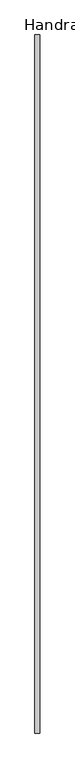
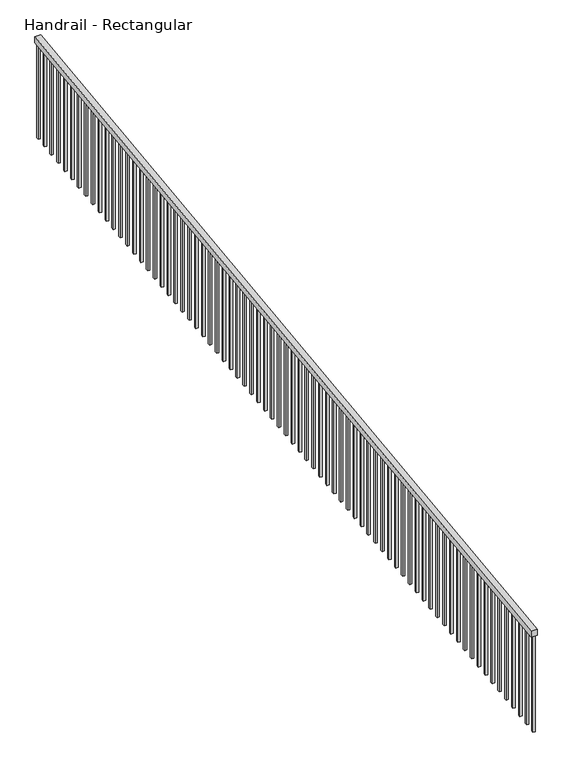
"""IFC4 building model written with IfcOpenShell, lengths in millimetres: railing geometry, Handrail - Rectangular."""

from ifc_helpers import new_model, si_unit, frame, origin, place, context, project, spatial, polyline, outline, extrude, source, transform, mapped, element, save


def handrail_rectangular_981b7af3(model_context):
    return source(origin(), model_context, "Body", "SweptSolid", [
        extrude(outline(polyline([(-8472.2859239, -51.1953367), (-8472.2859239, 0.0), (-1157.0859239, 914.4), (-1157.0859239, 863.2046633), (-8472.2859239, -51.1953367)])), frame((-3397.6845581, 0.0, 0.0), z_axis=(1.0, 0.0, 0.0), x_axis=(0.0, 1.0, 0.0)), (0.0, 0.0, 1.0), 50.8),
        extrude(outline(polyline([(-1268.2109239, 849.3140383), (-1249.1609239, 851.6952883), (-1249.1609239, -11.509375), (-1268.2109239, -13.890625), (-1268.2109239, 849.3140383)])), frame((-3381.8095581, 0.0, 0.0), z_axis=(1.0, 0.0, 0.0), x_axis=(0.0, 1.0, 0.0)), (0.0, 0.0, 1.0), 19.05),
        extrude(outline(polyline([(-1369.8109239, 836.6140383), (-1350.7609239, 838.9952883), (-1350.7609239, -24.209375), (-1369.8109239, -26.590625), (-1369.8109239, 836.6140383)])), frame((-3381.8095581, 0.0, 0.0), z_axis=(1.0, 0.0, 0.0), x_axis=(0.0, 1.0, 0.0)), (0.0, 0.0, 1.0), 19.05),
        extrude(outline(polyline([(-1471.4109239, 823.9140383), (-1452.3609239, 826.2952883), (-1452.3609239, -36.909375), (-1471.4109239, -39.290625), (-1471.4109239, 823.9140383)])), frame((-3381.8095581, 0.0, 0.0), z_axis=(1.0, 0.0, 0.0), x_axis=(0.0, 1.0, 0.0)), (0.0, 0.0, 1.0), 19.05),
        extrude(outline(polyline([(-1573.0109239, 811.2140383), (-1553.9609239, 813.5952883), (-1553.9609239, -49.609375), (-1573.0109239, -51.990625), (-1573.0109239, 811.2140383)])), frame((-3381.8095581, 0.0, 0.0), z_axis=(1.0, 0.0, 0.0), x_axis=(0.0, 1.0, 0.0)), (0.0, 0.0, 1.0), 19.05),
        extrude(outline(polyline([(-1674.6109239, 798.5140383), (-1655.5609239, 800.8952883), (-1655.5609239, -62.309375), (-1674.6109239, -64.690625), (-1674.6109239, 798.5140383)])), frame((-3381.8095581, 0.0, 0.0), z_axis=(1.0, 0.0, 0.0), x_axis=(0.0, 1.0, 0.0)), (0.0, 0.0, 1.0), 19.05),
        extrude(outline(polyline([(-1776.2109239, 785.8140383), (-1757.1609239, 788.1952883), (-1757.1609239, -75.009375), (-1776.2109239, -77.390625), (-1776.2109239, 785.8140383)])), frame((-3381.8095581, 0.0, 0.0), z_axis=(1.0, 0.0, 0.0), x_axis=(0.0, 1.0, 0.0)), (0.0, 0.0, 1.0), 19.05),
        extrude(outline(polyline([(-1877.8109239, 773.1140383), (-1858.7609239, 775.4952883), (-1858.7609239, -87.709375), (-1877.8109239, -90.090625), (-1877.8109239, 773.1140383)])), frame((-3381.8095581, 0.0, 0.0), z_axis=(1.0, 0.0, 0.0), x_axis=(0.0, 1.0, 0.0)), (0.0, 0.0, 1.0), 19.05),
        extrude(outline(polyline([(-1979.4109239, 760.4140383), (-1960.3609239, 762.7952883), (-1960.3609239, -100.409375), (-1979.4109239, -102.790625), (-1979.4109239, 760.4140383)])), frame((-3381.8095581, 0.0, 0.0), z_axis=(1.0, 0.0, 0.0), x_axis=(0.0, 1.0, 0.0)), (0.0, 0.0, 1.0), 19.05),
        extrude(outline(polyline([(-2081.0109239, 747.7140383), (-2061.9609239, 750.0952883), (-2061.9609239, -113.109375), (-2081.0109239, -115.490625), (-2081.0109239, 747.7140383)])), frame((-3381.8095581, 0.0, 0.0), z_axis=(1.0, 0.0, 0.0), x_axis=(0.0, 1.0, 0.0)), (0.0, 0.0, 1.0), 19.05),
        extrude(outline(polyline([(-2182.6109239, 735.0140383), (-2163.5609239, 737.3952883), (-2163.5609239, -125.809375), (-2182.6109239, -128.190625), (-2182.6109239, 735.0140383)])), frame((-3381.8095581, 0.0, 0.0), z_axis=(1.0, 0.0, 0.0), x_axis=(0.0, 1.0, 0.0)), (0.0, 0.0, 1.0), 19.05),
        extrude(outline(polyline([(-2284.2109239, 722.3140383), (-2265.1609239, 724.6952883), (-2265.1609239, -138.509375), (-2284.2109239, -140.890625), (-2284.2109239, 722.3140383)])), frame((-3381.8095581, 0.0, 0.0), z_axis=(1.0, 0.0, 0.0), x_axis=(0.0, 1.0, 0.0)), (0.0, 0.0, 1.0), 19.05),
        extrude(outline(polyline([(-2385.8109239, 709.6140383), (-2366.7609239, 711.9952883), (-2366.7609239, -151.209375), (-2385.8109239, -153.590625), (-2385.8109239, 709.6140383)])), frame((-3381.8095581, 0.0, 0.0), z_axis=(1.0, 0.0, 0.0), x_axis=(0.0, 1.0, 0.0)), (0.0, 0.0, 1.0), 19.05),
        extrude(outline(polyline([(-2487.4109239, 696.9140383), (-2468.3609239, 699.2952883), (-2468.3609239, -163.909375), (-2487.4109239, -166.290625), (-2487.4109239, 696.9140383)])), frame((-3381.8095581, 0.0, 0.0), z_axis=(1.0, 0.0, 0.0), x_axis=(0.0, 1.0, 0.0)), (0.0, 0.0, 1.0), 19.05),
        extrude(outline(polyline([(-2589.0109239, 684.2140383), (-2569.9609239, 686.5952883), (-2569.9609239, -176.609375), (-2589.0109239, -178.990625), (-2589.0109239, 684.2140383)])), frame((-3381.8095581, 0.0, 0.0), z_axis=(1.0, 0.0, 0.0), x_axis=(0.0, 1.0, 0.0)), (0.0, 0.0, 1.0), 19.05),
        extrude(outline(polyline([(-2690.6109239, 671.5140383), (-2671.5609239, 673.8952883), (-2671.5609239, -189.309375), (-2690.6109239, -191.690625), (-2690.6109239, 671.5140383)])), frame((-3381.8095581, 0.0, 0.0), z_axis=(1.0, 0.0, 0.0), x_axis=(0.0, 1.0, 0.0)), (0.0, 0.0, 1.0), 19.05),
        extrude(outline(polyline([(-2792.2109239, 658.8140383), (-2773.1609239, 661.1952883), (-2773.1609239, -202.009375), (-2792.2109239, -204.390625), (-2792.2109239, 658.8140383)])), frame((-3381.8095581, 0.0, 0.0), z_axis=(1.0, 0.0, 0.0), x_axis=(0.0, 1.0, 0.0)), (0.0, 0.0, 1.0), 19.05),
        extrude(outline(polyline([(-2893.8109239, 646.1140383), (-2874.7609239, 648.4952883), (-2874.7609239, -214.709375), (-2893.8109239, -217.090625), (-2893.8109239, 646.1140383)])), frame((-3381.8095581, 0.0, 0.0), z_axis=(1.0, 0.0, 0.0), x_axis=(0.0, 1.0, 0.0)), (0.0, 0.0, 1.0), 19.05),
        extrude(outline(polyline([(-2995.4109239, 633.4140383), (-2976.3609239, 635.7952883), (-2976.3609239, -227.409375), (-2995.4109239, -229.790625), (-2995.4109239, 633.4140383)])), frame((-3381.8095581, 0.0, 0.0), z_axis=(1.0, 0.0, 0.0), x_axis=(0.0, 1.0, 0.0)), (0.0, 0.0, 1.0), 19.05),
        extrude(outline(polyline([(-3097.0109239, 620.7140383), (-3077.9609239, 623.0952883), (-3077.9609239, -240.109375), (-3097.0109239, -242.490625), (-3097.0109239, 620.7140383)])), frame((-3381.8095581, 0.0, 0.0), z_axis=(1.0, 0.0, 0.0), x_axis=(0.0, 1.0, 0.0)), (0.0, 0.0, 1.0), 19.05),
        extrude(outline(polyline([(-3198.6109239, 608.0140383), (-3179.5609239, 610.3952883), (-3179.5609239, -252.809375), (-3198.6109239, -255.190625), (-3198.6109239, 608.0140383)])), frame((-3381.8095581, 0.0, 0.0), z_axis=(1.0, 0.0, 0.0), x_axis=(0.0, 1.0, 0.0)), (0.0, 0.0, 1.0), 19.05),
        extrude(outline(polyline([(-3300.2109239, 595.3140383), (-3281.1609239, 597.6952883), (-3281.1609239, -265.509375), (-3300.2109239, -267.890625), (-3300.2109239, 595.3140383)])), frame((-3381.8095581, 0.0, 0.0), z_axis=(1.0, 0.0, 0.0), x_axis=(0.0, 1.0, 0.0)), (0.0, 0.0, 1.0), 19.05),
        extrude(outline(polyline([(-3401.8109239, 582.6140383), (-3382.7609239, 584.9952883), (-3382.7609239, -278.209375), (-3401.8109239, -280.590625), (-3401.8109239, 582.6140383)])), frame((-3381.8095581, 0.0, 0.0), z_axis=(1.0, 0.0, 0.0), x_axis=(0.0, 1.0, 0.0)), (0.0, 0.0, 1.0), 19.05),
        extrude(outline(polyline([(-3503.4109239, 569.9140383), (-3484.3609239, 572.2952883), (-3484.3609239, -290.909375), (-3503.4109239, -293.290625), (-3503.4109239, 569.9140383)])), frame((-3381.8095581, 0.0, 0.0), z_axis=(1.0, 0.0, 0.0), x_axis=(0.0, 1.0, 0.0)), (0.0, 0.0, 1.0), 19.05),
        extrude(outline(polyline([(-3605.0109239, 557.2140383), (-3585.9609239, 559.5952883), (-3585.9609239, -303.609375), (-3605.0109239, -305.990625), (-3605.0109239, 557.2140383)])), frame((-3381.8095581, 0.0, 0.0), z_axis=(1.0, 0.0, 0.0), x_axis=(0.0, 1.0, 0.0)), (0.0, 0.0, 1.0), 19.05),
        extrude(outline(polyline([(-3706.6109239, 544.5140383), (-3687.5609239, 546.8952883), (-3687.5609239, -316.309375), (-3706.6109239, -318.690625), (-3706.6109239, 544.5140383)])), frame((-3381.8095581, 0.0, 0.0), z_axis=(1.0, 0.0, 0.0), x_axis=(0.0, 1.0, 0.0)), (0.0, 0.0, 1.0), 19.05),
        extrude(outline(polyline([(-3808.2109239, 531.8140383), (-3789.1609239, 534.1952883), (-3789.1609239, -329.009375), (-3808.2109239, -331.390625), (-3808.2109239, 531.8140383)])), frame((-3381.8095581, 0.0, 0.0), z_axis=(1.0, 0.0, 0.0), x_axis=(0.0, 1.0, 0.0)), (0.0, 0.0, 1.0), 19.05),
        extrude(outline(polyline([(-3909.8109239, 519.1140383), (-3890.7609239, 521.4952883), (-3890.7609239, -341.709375), (-3909.8109239, -344.090625), (-3909.8109239, 519.1140383)])), frame((-3381.8095581, 0.0, 0.0), z_axis=(1.0, 0.0, 0.0), x_axis=(0.0, 1.0, 0.0)), (0.0, 0.0, 1.0), 19.05),
        extrude(outline(polyline([(-4011.4109239, 506.4140383), (-3992.3609239, 508.7952883), (-3992.3609239, -354.409375), (-4011.4109239, -356.790625), (-4011.4109239, 506.4140383)])), frame((-3381.8095581, 0.0, 0.0), z_axis=(1.0, 0.0, 0.0), x_axis=(0.0, 1.0, 0.0)), (0.0, 0.0, 1.0), 19.05),
        extrude(outline(polyline([(-4113.0109239, 493.7140383), (-4093.9609239, 496.0952883), (-4093.9609239, -367.109375), (-4113.0109239, -369.490625), (-4113.0109239, 493.7140383)])), frame((-3381.8095581, 0.0, 0.0), z_axis=(1.0, 0.0, 0.0), x_axis=(0.0, 1.0, 0.0)), (0.0, 0.0, 1.0), 19.05),
        extrude(outline(polyline([(-4214.6109239, 481.0140383), (-4195.5609239, 483.3952883), (-4195.5609239, -379.809375), (-4214.6109239, -382.190625), (-4214.6109239, 481.0140383)])), frame((-3381.8095581, 0.0, 0.0), z_axis=(1.0, 0.0, 0.0), x_axis=(0.0, 1.0, 0.0)), (0.0, 0.0, 1.0), 19.05),
        extrude(outline(polyline([(-4316.2109239, 468.3140383), (-4297.1609239, 470.6952883), (-4297.1609239, -392.509375), (-4316.2109239, -394.890625), (-4316.2109239, 468.3140383)])), frame((-3381.8095581, 0.0, 0.0), z_axis=(1.0, 0.0, 0.0), x_axis=(0.0, 1.0, 0.0)), (0.0, 0.0, 1.0), 19.05),
        extrude(outline(polyline([(-4417.8109239, 455.6140383), (-4398.7609239, 457.9952883), (-4398.7609239, -405.209375), (-4417.8109239, -407.590625), (-4417.8109239, 455.6140383)])), frame((-3381.8095581, 0.0, 0.0), z_axis=(1.0, 0.0, 0.0), x_axis=(0.0, 1.0, 0.0)), (0.0, 0.0, 1.0), 19.05),
        extrude(outline(polyline([(-4519.4109239, 442.9140383), (-4500.3609239, 445.2952883), (-4500.3609239, -417.909375), (-4519.4109239, -420.290625), (-4519.4109239, 442.9140383)])), frame((-3381.8095581, 0.0, 0.0), z_axis=(1.0, 0.0, 0.0), x_axis=(0.0, 1.0, 0.0)), (0.0, 0.0, 1.0), 19.05),
        extrude(outline(polyline([(-4621.0109239, 430.2140383), (-4601.9609239, 432.5952883), (-4601.9609239, -430.609375), (-4621.0109239, -432.990625), (-4621.0109239, 430.2140383)])), frame((-3381.8095581, 0.0, 0.0), z_axis=(1.0, 0.0, 0.0), x_axis=(0.0, 1.0, 0.0)), (0.0, 0.0, 1.0), 19.05),
        extrude(outline(polyline([(-4722.6109239, 417.5140383), (-4703.5609239, 419.8952883), (-4703.5609239, -443.309375), (-4722.6109239, -445.690625), (-4722.6109239, 417.5140383)])), frame((-3381.8095581, 0.0, 0.0), z_axis=(1.0, 0.0, 0.0), x_axis=(0.0, 1.0, 0.0)), (0.0, 0.0, 1.0), 19.05),
        extrude(outline(polyline([(-4824.2109239, 404.8140383), (-4805.1609239, 407.1952883), (-4805.1609239, -456.009375), (-4824.2109239, -458.390625), (-4824.2109239, 404.8140383)])), frame((-3381.8095581, 0.0, 0.0), z_axis=(1.0, 0.0, 0.0), x_axis=(0.0, 1.0, 0.0)), (0.0, 0.0, 1.0), 19.05),
        extrude(outline(polyline([(-4925.8109239, 392.1140383), (-4906.7609239, 394.4952883), (-4906.7609239, -468.709375), (-4925.8109239, -471.090625), (-4925.8109239, 392.1140383)])), frame((-3381.8095581, 0.0, 0.0), z_axis=(1.0, 0.0, 0.0), x_axis=(0.0, 1.0, 0.0)), (0.0, 0.0, 1.0), 19.05),
        extrude(outline(polyline([(-5027.4109239, 379.4140383), (-5008.3609239, 381.7952883), (-5008.3609239, -481.409375), (-5027.4109239, -483.790625), (-5027.4109239, 379.4140383)])), frame((-3381.8095581, 0.0, 0.0), z_axis=(1.0, 0.0, 0.0), x_axis=(0.0, 1.0, 0.0)), (0.0, 0.0, 1.0), 19.05),
        extrude(outline(polyline([(-5129.0109239, 366.7140383), (-5109.9609239, 369.0952883), (-5109.9609239, -494.109375), (-5129.0109239, -496.490625), (-5129.0109239, 366.7140383)])), frame((-3381.8095581, 0.0, 0.0), z_axis=(1.0, 0.0, 0.0), x_axis=(0.0, 1.0, 0.0)), (0.0, 0.0, 1.0), 19.05),
        extrude(outline(polyline([(-5230.6109239, 354.0140383), (-5211.5609239, 356.3952883), (-5211.5609239, -506.809375), (-5230.6109239, -509.190625), (-5230.6109239, 354.0140383)])), frame((-3381.8095581, 0.0, 0.0), z_axis=(1.0, 0.0, 0.0), x_axis=(0.0, 1.0, 0.0)), (0.0, 0.0, 1.0), 19.05),
        extrude(outline(polyline([(-5332.2109239, 341.3140383), (-5313.1609239, 343.6952883), (-5313.1609239, -519.509375), (-5332.2109239, -521.890625), (-5332.2109239, 341.3140383)])), frame((-3381.8095581, 0.0, 0.0), z_axis=(1.0, 0.0, 0.0), x_axis=(0.0, 1.0, 0.0)), (0.0, 0.0, 1.0), 19.05),
        extrude(outline(polyline([(-5433.8109239, 328.6140383), (-5414.7609239, 330.9952883), (-5414.7609239, -532.209375), (-5433.8109239, -534.590625), (-5433.8109239, 328.6140383)])), frame((-3381.8095581, 0.0, 0.0), z_axis=(1.0, 0.0, 0.0), x_axis=(0.0, 1.0, 0.0)), (0.0, 0.0, 1.0), 19.05),
        extrude(outline(polyline([(-5535.4109239, 315.9140383), (-5516.3609239, 318.2952883), (-5516.3609239, -544.909375), (-5535.4109239, -547.290625), (-5535.4109239, 315.9140383)])), frame((-3381.8095581, 0.0, 0.0), z_axis=(1.0, 0.0, 0.0), x_axis=(0.0, 1.0, 0.0)), (0.0, 0.0, 1.0), 19.05),
        extrude(outline(polyline([(-5637.0109239, 303.2140383), (-5617.9609239, 305.5952883), (-5617.9609239, -557.609375), (-5637.0109239, -559.990625), (-5637.0109239, 303.2140383)])), frame((-3381.8095581, 0.0, 0.0), z_axis=(1.0, 0.0, 0.0), x_axis=(0.0, 1.0, 0.0)), (0.0, 0.0, 1.0), 19.05),
        extrude(outline(polyline([(-5738.6109239, 290.5140383), (-5719.5609239, 292.8952883), (-5719.5609239, -570.309375), (-5738.6109239, -572.690625), (-5738.6109239, 290.5140383)])), frame((-3381.8095581, 0.0, 0.0), z_axis=(1.0, 0.0, 0.0), x_axis=(0.0, 1.0, 0.0)), (0.0, 0.0, 1.0), 19.05),
        extrude(outline(polyline([(-5840.2109239, 277.8140383), (-5821.1609239, 280.1952883), (-5821.1609239, -583.009375), (-5840.2109239, -585.390625), (-5840.2109239, 277.8140383)])), frame((-3381.8095581, 0.0, 0.0), z_axis=(1.0, 0.0, 0.0), x_axis=(0.0, 1.0, 0.0)), (0.0, 0.0, 1.0), 19.05),
        extrude(outline(polyline([(-5941.8109239, 265.1140383), (-5922.7609239, 267.4952883), (-5922.7609239, -595.709375), (-5941.8109239, -598.090625), (-5941.8109239, 265.1140383)])), frame((-3381.8095581, 0.0, 0.0), z_axis=(1.0, 0.0, 0.0), x_axis=(0.0, 1.0, 0.0)), (0.0, 0.0, 1.0), 19.05),
        extrude(outline(polyline([(-6043.4109239, 252.4140383), (-6024.3609239, 254.7952883), (-6024.3609239, -608.409375), (-6043.4109239, -610.790625), (-6043.4109239, 252.4140383)])), frame((-3381.8095581, 0.0, 0.0), z_axis=(1.0, 0.0, 0.0), x_axis=(0.0, 1.0, 0.0)), (0.0, 0.0, 1.0), 19.05),
        extrude(outline(polyline([(-6145.0109239, 239.7140383), (-6125.9609239, 242.0952883), (-6125.9609239, -621.109375), (-6145.0109239, -623.490625), (-6145.0109239, 239.7140383)])), frame((-3381.8095581, 0.0, 0.0), z_axis=(1.0, 0.0, 0.0), x_axis=(0.0, 1.0, 0.0)), (0.0, 0.0, 1.0), 19.05),
        extrude(outline(polyline([(-6246.6109239, 227.0140383), (-6227.5609239, 229.3952883), (-6227.5609239, -633.809375), (-6246.6109239, -636.190625), (-6246.6109239, 227.0140383)])), frame((-3381.8095581, 0.0, 0.0), z_axis=(1.0, 0.0, 0.0), x_axis=(0.0, 1.0, 0.0)), (0.0, 0.0, 1.0), 19.05),
        extrude(outline(polyline([(-6348.2109239, 214.3140383), (-6329.1609239, 216.6952883), (-6329.1609239, -646.509375), (-6348.2109239, -648.890625), (-6348.2109239, 214.3140383)])), frame((-3381.8095581, 0.0, 0.0), z_axis=(1.0, 0.0, 0.0), x_axis=(0.0, 1.0, 0.0)), (0.0, 0.0, 1.0), 19.05),
        extrude(outline(polyline([(-6449.8109239, 201.6140383), (-6430.7609239, 203.9952883), (-6430.7609239, -659.209375), (-6449.8109239, -661.590625), (-6449.8109239, 201.6140383)])), frame((-3381.8095581, 0.0, 0.0), z_axis=(1.0, 0.0, 0.0), x_axis=(0.0, 1.0, 0.0)), (0.0, 0.0, 1.0), 19.05),
        extrude(outline(polyline([(-6551.4109239, 188.9140383), (-6532.3609239, 191.2952883), (-6532.3609239, -671.909375), (-6551.4109239, -674.290625), (-6551.4109239, 188.9140383)])), frame((-3381.8095581, 0.0, 0.0), z_axis=(1.0, 0.0, 0.0), x_axis=(0.0, 1.0, 0.0)), (0.0, 0.0, 1.0), 19.05),
        extrude(outline(polyline([(-6653.0109239, 176.2140383), (-6633.9609239, 178.5952883), (-6633.9609239, -684.609375), (-6653.0109239, -686.990625), (-6653.0109239, 176.2140383)])), frame((-3381.8095581, 0.0, 0.0), z_axis=(1.0, 0.0, 0.0), x_axis=(0.0, 1.0, 0.0)), (0.0, 0.0, 1.0), 19.05),
        extrude(outline(polyline([(-6754.6109239, 163.5140383), (-6735.5609239, 165.8952883), (-6735.5609239, -697.309375), (-6754.6109239, -699.690625), (-6754.6109239, 163.5140383)])), frame((-3381.8095581, 0.0, 0.0), z_axis=(1.0, 0.0, 0.0), x_axis=(0.0, 1.0, 0.0)), (0.0, 0.0, 1.0), 19.05),
        extrude(outline(polyline([(-6856.2109239, 150.8140383), (-6837.1609239, 153.1952883), (-6837.1609239, -710.009375), (-6856.2109239, -712.390625), (-6856.2109239, 150.8140383)])), frame((-3381.8095581, 0.0, 0.0), z_axis=(1.0, 0.0, 0.0), x_axis=(0.0, 1.0, 0.0)), (0.0, 0.0, 1.0), 19.05),
        extrude(outline(polyline([(-6957.8109239, 138.1140383), (-6938.7609239, 140.4952883), (-6938.7609239, -722.709375), (-6957.8109239, -725.090625), (-6957.8109239, 138.1140383)])), frame((-3381.8095581, 0.0, 0.0), z_axis=(1.0, 0.0, 0.0), x_axis=(0.0, 1.0, 0.0)), (0.0, 0.0, 1.0), 19.05),
        extrude(outline(polyline([(-7059.4109239, 125.4140383), (-7040.3609239, 127.7952883), (-7040.3609239, -735.409375), (-7059.4109239, -737.790625), (-7059.4109239, 125.4140383)])), frame((-3381.8095581, 0.0, 0.0), z_axis=(1.0, 0.0, 0.0), x_axis=(0.0, 1.0, 0.0)), (0.0, 0.0, 1.0), 19.05),
        extrude(outline(polyline([(-7161.0109239, 112.7140383), (-7141.9609239, 115.0952883), (-7141.9609239, -748.109375), (-7161.0109239, -750.490625), (-7161.0109239, 112.7140383)])), frame((-3381.8095581, 0.0, 0.0), z_axis=(1.0, 0.0, 0.0), x_axis=(0.0, 1.0, 0.0)), (0.0, 0.0, 1.0), 19.05),
        extrude(outline(polyline([(-7262.6109239, 100.0140383), (-7243.5609239, 102.3952883), (-7243.5609239, -760.809375), (-7262.6109239, -763.190625), (-7262.6109239, 100.0140383)])), frame((-3381.8095581, 0.0, 0.0), z_axis=(1.0, 0.0, 0.0), x_axis=(0.0, 1.0, 0.0)), (0.0, 0.0, 1.0), 19.05),
        extrude(outline(polyline([(-7364.2109239, 87.3140383), (-7345.1609239, 89.6952883), (-7345.1609239, -773.509375), (-7364.2109239, -775.890625), (-7364.2109239, 87.3140383)])), frame((-3381.8095581, 0.0, 0.0), z_axis=(1.0, 0.0, 0.0), x_axis=(0.0, 1.0, 0.0)), (0.0, 0.0, 1.0), 19.05),
        extrude(outline(polyline([(-7465.8109239, 74.6140383), (-7446.7609239, 76.9952883), (-7446.7609239, -786.209375), (-7465.8109239, -788.590625), (-7465.8109239, 74.6140383)])), frame((-3381.8095581, 0.0, 0.0), z_axis=(1.0, 0.0, 0.0), x_axis=(0.0, 1.0, 0.0)), (0.0, 0.0, 1.0), 19.05),
        extrude(outline(polyline([(-7567.4109239, 61.9140383), (-7548.3609239, 64.2952883), (-7548.3609239, -798.909375), (-7567.4109239, -801.290625), (-7567.4109239, 61.9140383)])), frame((-3381.8095581, 0.0, 0.0), z_axis=(1.0, 0.0, 0.0), x_axis=(0.0, 1.0, 0.0)), (0.0, 0.0, 1.0), 19.05),
        extrude(outline(polyline([(-7669.0109239, 49.2140383), (-7649.9609239, 51.5952883), (-7649.9609239, -811.609375), (-7669.0109239, -813.990625), (-7669.0109239, 49.2140383)])), frame((-3381.8095581, 0.0, 0.0), z_axis=(1.0, 0.0, 0.0), x_axis=(0.0, 1.0, 0.0)), (0.0, 0.0, 1.0), 19.05),
        extrude(outline(polyline([(-7770.6109239, 36.5140383), (-7751.5609239, 38.8952883), (-7751.5609239, -824.309375), (-7770.6109239, -826.690625), (-7770.6109239, 36.5140383)])), frame((-3381.8095581, 0.0, 0.0), z_axis=(1.0, 0.0, 0.0), x_axis=(0.0, 1.0, 0.0)), (0.0, 0.0, 1.0), 19.05),
        extrude(outline(polyline([(-7872.2109239, 23.8140383), (-7853.1609239, 26.1952883), (-7853.1609239, -837.009375), (-7872.2109239, -839.390625), (-7872.2109239, 23.8140383)])), frame((-3381.8095581, 0.0, 0.0), z_axis=(1.0, 0.0, 0.0), x_axis=(0.0, 1.0, 0.0)), (0.0, 0.0, 1.0), 19.05),
        extrude(outline(polyline([(-7973.8109239, 11.1140383), (-7954.7609239, 13.4952883), (-7954.7609239, -849.709375), (-7973.8109239, -852.090625), (-7973.8109239, 11.1140383)])), frame((-3381.8095581, 0.0, 0.0), z_axis=(1.0, 0.0, 0.0), x_axis=(0.0, 1.0, 0.0)), (0.0, 0.0, 1.0), 19.05),
        extrude(outline(polyline([(-8075.4109239, -1.5859617), (-8056.3609239, 0.7952883), (-8056.3609239, -862.409375), (-8075.4109239, -864.790625), (-8075.4109239, -1.5859617)])), frame((-3381.8095581, 0.0, 0.0), z_axis=(1.0, 0.0, 0.0), x_axis=(0.0, 1.0, 0.0)), (0.0, 0.0, 1.0), 19.05),
        extrude(outline(polyline([(-8177.0109239, -14.2859617), (-8157.9609239, -11.9047117), (-8157.9609239, -875.109375), (-8177.0109239, -877.490625), (-8177.0109239, -14.2859617)])), frame((-3381.8095581, 0.0, 0.0), z_axis=(1.0, 0.0, 0.0), x_axis=(0.0, 1.0, 0.0)), (0.0, 0.0, 1.0), 19.05),
        extrude(outline(polyline([(-8278.6109239, -26.9859617), (-8259.5609239, -24.6047117), (-8259.5609239, -887.809375), (-8278.6109239, -890.190625), (-8278.6109239, -26.9859617)])), frame((-3381.8095581, 0.0, 0.0), z_axis=(1.0, 0.0, 0.0), x_axis=(0.0, 1.0, 0.0)), (0.0, 0.0, 1.0), 19.05),
        extrude(outline(polyline([(-8380.2109239, -39.6859617), (-8361.1609239, -37.3047117), (-8361.1609239, -900.509375), (-8380.2109239, -902.890625), (-8380.2109239, -39.6859617)])), frame((-3381.8095581, 0.0, 0.0), z_axis=(1.0, 0.0, 0.0), x_axis=(0.0, 1.0, 0.0)), (0.0, 0.0, 1.0), 19.05),
        extrude(outline(polyline([(-1176.1359239, 860.8234133), (-1157.0859239, 863.2046633), (-1157.0859239, 0.0), (-1176.1359239, -2.38125), (-1176.1359239, 860.8234133)])), frame((-3381.8095581, 0.0, 0.0), z_axis=(1.0, 0.0, 0.0), x_axis=(0.0, 1.0, 0.0)), (0.0, 0.0, 1.0), 19.05),
        extrude(outline(polyline([(-8472.2859239, -51.1953367), (-8453.2359239, -48.8140867), (-8453.2359239, -912.01875), (-8472.2859239, -914.4), (-8472.2859239, -51.1953367)])), frame((-3381.8095581, 0.0, 0.0), z_axis=(1.0, 0.0, 0.0), x_axis=(0.0, 1.0, 0.0)), (0.0, 0.0, 1.0), 19.05),
    ])


if __name__ == "__main__":
    model = new_model("IFC4")
    model_context = context("Model", 3, world=origin())
    ifc_project = project(units=[si_unit("LENGTHUNIT", "METRE", prefix="MILLI")], contexts=[model_context])
    site = spatial("IfcSite", under=ifc_project)
    building = spatial("IfcBuilding", under=site)
    placement = place(None, origin())
    handrail_rectangular_shape = handrail_rectangular_981b7af3(model_context)
    element("IfcRailing", 1, ObjectType="Handrail - Rectangular", at=placement, inside=building, context=model_context, shape_type="MappedRepresentation", body=[
        mapped(handrail_rectangular_shape, transform((0.0, 0.0, 0.0), x_axis=(1.0, 0.0, 0.0), y_axis=(0.0, 1.0, 0.0), z_axis=(0.0, 0.0, 1.0))),
    ])
    save(model, "model.ifc")
